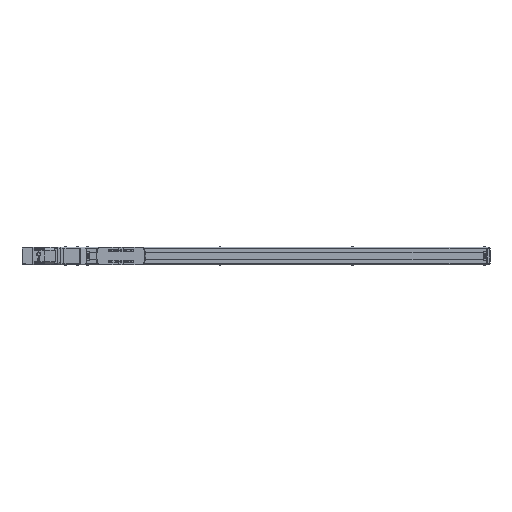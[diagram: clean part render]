
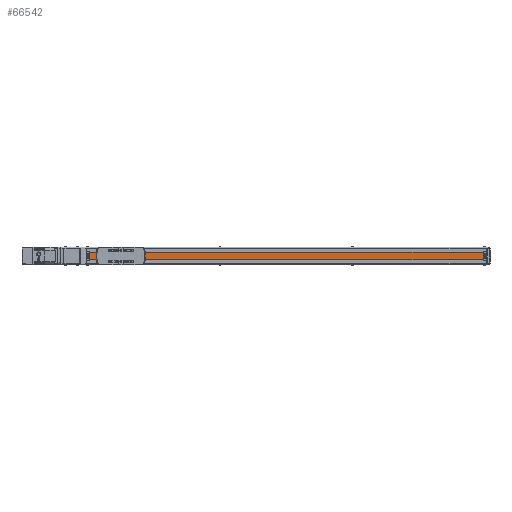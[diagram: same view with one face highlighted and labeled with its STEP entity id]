
A CAD part, top view. The second image highlights one B-rep face of the part: STEP entity #66542.
In plain terms, the highlighted planar face has unit normal (0, 0, 1) as drawn and (0, 1, 0) by its records, which use the part's own axes.
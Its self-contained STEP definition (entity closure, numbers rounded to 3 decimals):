
#66250 = PLANE('',#66251);
#66251 = AXIS2_PLACEMENT_3D('',#66252,#66253,#66254);
#66252 = CARTESIAN_POINT('',(-16.5,13.8,-10.));
#66253 = DIRECTION('',(1.,0.,0.));
#66254 = DIRECTION('',(0.,0.,-1.));
#66306 = PLANE('',#66307);
#66307 = AXIS2_PLACEMENT_3D('',#66308,#66309,#66310);
#66308 = CARTESIAN_POINT('',(-969.5,13.8,10.));
#66309 = DIRECTION('',(-1.,0.,0.));
#66310 = DIRECTION('',(0.,0.,1.));
#66542 = ADVANCED_FACE('',(#66543),#66557,.T.);
#66543 = FACE_BOUND('',#66544,.T.);
#66544 = EDGE_LOOP('',(#66545,#66580,#66603,#66631));
#66545 = ORIENTED_EDGE('',*,*,#66546,.T.);
#66546 = EDGE_CURVE('',#66547,#66549,#66551,.T.);
#66547 = VERTEX_POINT('',#66548);
#66548 = CARTESIAN_POINT('',(-969.5,12.3,9.2));
#66549 = VERTEX_POINT('',#66550);
#66550 = CARTESIAN_POINT('',(-16.5,12.3,9.2));
#66551 = SURFACE_CURVE('',#66552,(#66556,#66568),.PCURVE_S1.);
#66552 = LINE('',#66553,#66554);
#66553 = CARTESIAN_POINT('',(-976.5,12.3,9.2));
#66554 = VECTOR('',#66555,1.);
#66555 = DIRECTION('',(1.,0.,0.));
#66556 = PCURVE('',#66557,#66562);
#66557 = PLANE('',#66558);
#66558 = AXIS2_PLACEMENT_3D('',#66559,#66560,#66561);
#66559 = CARTESIAN_POINT('',(-976.5,12.3,-18.034));
#66560 = DIRECTION('',(0.,1.,0.));
#66561 = DIRECTION('',(0.,-0.,1.));
#66562 = DEFINITIONAL_REPRESENTATION('',(#66563),#66567);
#66563 = LINE('',#66564,#66565);
#66564 = CARTESIAN_POINT('',(27.234,0.));
#66565 = VECTOR('',#66566,1.);
#66566 = DIRECTION('',(0.,1.));
#66567 = ( GEOMETRIC_REPRESENTATION_CONTEXT(2) 
PARAMETRIC_REPRESENTATION_CONTEXT() REPRESENTATION_CONTEXT('2D SPACE',''
  ) );
#66568 = PCURVE('',#66569,#66574);
#66569 = PLANE('',#66570);
#66570 = AXIS2_PLACEMENT_3D('',#66571,#66572,#66573);
#66571 = CARTESIAN_POINT('',(-976.5,11.1,9.2));
#66572 = DIRECTION('',(0.,0.,-1.));
#66573 = DIRECTION('',(0.,1.,0.));
#66574 = DEFINITIONAL_REPRESENTATION('',(#66575),#66579);
#66575 = LINE('',#66576,#66577);
#66576 = CARTESIAN_POINT('',(1.2,0.));
#66577 = VECTOR('',#66578,1.);
#66578 = DIRECTION('',(0.,1.));
#66579 = ( GEOMETRIC_REPRESENTATION_CONTEXT(2) 
PARAMETRIC_REPRESENTATION_CONTEXT() REPRESENTATION_CONTEXT('2D SPACE',''
  ) );
#66580 = ORIENTED_EDGE('',*,*,#66581,.T.);
#66581 = EDGE_CURVE('',#66549,#66582,#66584,.T.);
#66582 = VERTEX_POINT('',#66583);
#66583 = CARTESIAN_POINT('',(-16.5,12.3,-9.2));
#66584 = SURFACE_CURVE('',#66585,(#66589,#66596),.PCURVE_S1.);
#66585 = LINE('',#66586,#66587);
#66586 = CARTESIAN_POINT('',(-16.5,12.3,-18.034));
#66587 = VECTOR('',#66588,1.);
#66588 = DIRECTION('',(0.,0.,-1.));
#66589 = PCURVE('',#66557,#66590);
#66590 = DEFINITIONAL_REPRESENTATION('',(#66591),#66595);
#66591 = LINE('',#66592,#66593);
#66592 = CARTESIAN_POINT('',(0.,960.));
#66593 = VECTOR('',#66594,1.);
#66594 = DIRECTION('',(-1.,0.));
#66595 = ( GEOMETRIC_REPRESENTATION_CONTEXT(2) 
PARAMETRIC_REPRESENTATION_CONTEXT() REPRESENTATION_CONTEXT('2D SPACE',''
  ) );
#66596 = PCURVE('',#66250,#66597);
#66597 = DEFINITIONAL_REPRESENTATION('',(#66598),#66602);
#66598 = LINE('',#66599,#66600);
#66599 = CARTESIAN_POINT('',(8.034,-1.5));
#66600 = VECTOR('',#66601,1.);
#66601 = DIRECTION('',(1.,0.));
#66602 = ( GEOMETRIC_REPRESENTATION_CONTEXT(2) 
PARAMETRIC_REPRESENTATION_CONTEXT() REPRESENTATION_CONTEXT('2D SPACE',''
  ) );
#66603 = ORIENTED_EDGE('',*,*,#66604,.F.);
#66604 = EDGE_CURVE('',#66605,#66582,#66607,.T.);
#66605 = VERTEX_POINT('',#66606);
#66606 = CARTESIAN_POINT('',(-969.5,12.3,-9.2));
#66607 = SURFACE_CURVE('',#66608,(#66612,#66619),.PCURVE_S1.);
#66608 = LINE('',#66609,#66610);
#66609 = CARTESIAN_POINT('',(-976.5,12.3,-9.2));
#66610 = VECTOR('',#66611,1.);
#66611 = DIRECTION('',(1.,0.,0.));
#66612 = PCURVE('',#66557,#66613);
#66613 = DEFINITIONAL_REPRESENTATION('',(#66614),#66618);
#66614 = LINE('',#66615,#66616);
#66615 = CARTESIAN_POINT('',(8.834,0.));
#66616 = VECTOR('',#66617,1.);
#66617 = DIRECTION('',(0.,1.));
#66618 = ( GEOMETRIC_REPRESENTATION_CONTEXT(2) 
PARAMETRIC_REPRESENTATION_CONTEXT() REPRESENTATION_CONTEXT('2D SPACE',''
  ) );
#66619 = PCURVE('',#66620,#66625);
#66620 = PLANE('',#66621);
#66621 = AXIS2_PLACEMENT_3D('',#66622,#66623,#66624);
#66622 = CARTESIAN_POINT('',(-976.5,12.3,-9.2));
#66623 = DIRECTION('',(0.,0.,1.));
#66624 = DIRECTION('',(0.,-1.,0.));
#66625 = DEFINITIONAL_REPRESENTATION('',(#66626),#66630);
#66626 = LINE('',#66627,#66628);
#66627 = CARTESIAN_POINT('',(0.,0.));
#66628 = VECTOR('',#66629,1.);
#66629 = DIRECTION('',(0.,1.));
#66630 = ( GEOMETRIC_REPRESENTATION_CONTEXT(2) 
PARAMETRIC_REPRESENTATION_CONTEXT() REPRESENTATION_CONTEXT('2D SPACE',''
  ) );
#66631 = ORIENTED_EDGE('',*,*,#66632,.T.);
#66632 = EDGE_CURVE('',#66605,#66547,#66633,.T.);
#66633 = SURFACE_CURVE('',#66634,(#66638,#66645),.PCURVE_S1.);
#66634 = LINE('',#66635,#66636);
#66635 = CARTESIAN_POINT('',(-969.5,12.3,-18.034));
#66636 = VECTOR('',#66637,1.);
#66637 = DIRECTION('',(0.,0.,1.));
#66638 = PCURVE('',#66557,#66639);
#66639 = DEFINITIONAL_REPRESENTATION('',(#66640),#66644);
#66640 = LINE('',#66641,#66642);
#66641 = CARTESIAN_POINT('',(0.,7.));
#66642 = VECTOR('',#66643,1.);
#66643 = DIRECTION('',(1.,0.));
#66644 = ( GEOMETRIC_REPRESENTATION_CONTEXT(2) 
PARAMETRIC_REPRESENTATION_CONTEXT() REPRESENTATION_CONTEXT('2D SPACE',''
  ) );
#66645 = PCURVE('',#66306,#66646);
#66646 = DEFINITIONAL_REPRESENTATION('',(#66647),#66651);
#66647 = LINE('',#66648,#66649);
#66648 = CARTESIAN_POINT('',(-28.034,-1.5));
#66649 = VECTOR('',#66650,1.);
#66650 = DIRECTION('',(1.,0.));
#66651 = ( GEOMETRIC_REPRESENTATION_CONTEXT(2) 
PARAMETRIC_REPRESENTATION_CONTEXT() REPRESENTATION_CONTEXT('2D SPACE',''
  ) );
